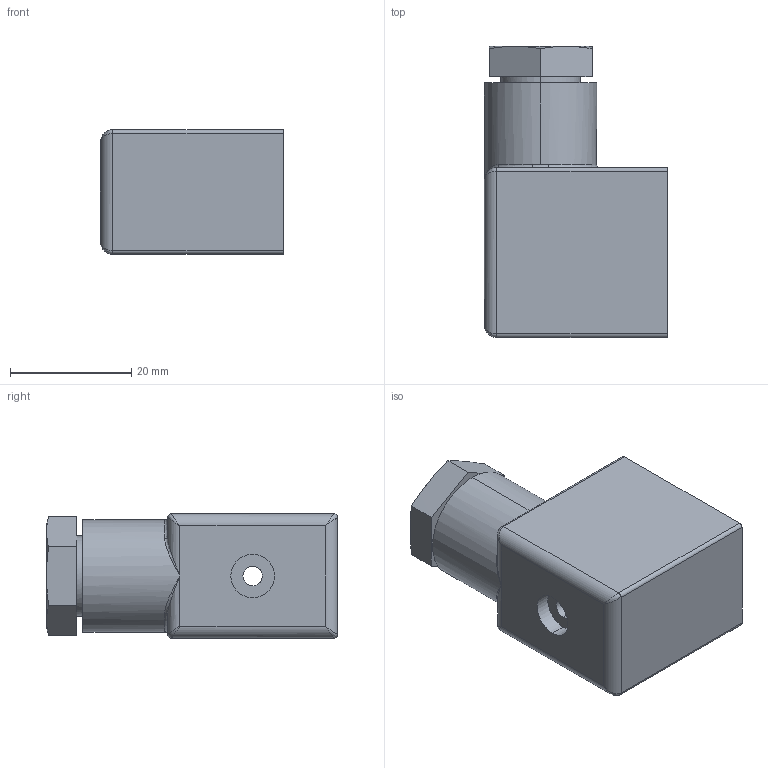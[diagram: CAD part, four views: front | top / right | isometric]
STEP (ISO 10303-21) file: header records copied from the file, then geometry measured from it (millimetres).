
FILE_DESCRIPTION (( 'STEP AP214' ), '1' );
FILE_NAME ('00_394_0.STEP', '2016-09-07T07:43:13', ( '' ), ( '' ), 'SwSTEP 2.0', 'SolidWorks 2016', '' );
FILE_SCHEMA (( 'AUTOMOTIVE_DESIGN' ));
Length unit declared in the file: millimetre
Products named in the file (1): 00_394_0
Bounding box: 30.2 x 48 x 20.5 mm (x, y, z)
Volume: 20256.4 mm3; surface area: 9662.1 mm2
Topology: 1 solids, 1 shells, 92 faces, 214 edges, 128 vertices
Faces by surface type: plane 46, cylinder 26, bspline 13, cone 7
Entity records: 4752 total; most frequent: CARTESIAN_POINT 2399, ORIENTED_EDGE 416, DIRECTION 341, EDGE_CURVE 208, VERTEX_POINT 128, VECTOR 115, LINE 115, AXIS2_PLACEMENT_3D 113
